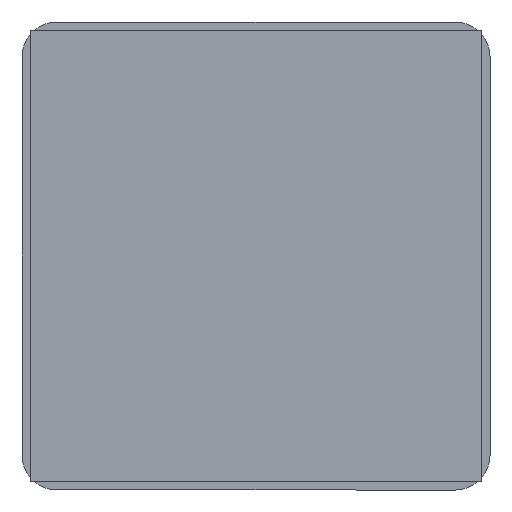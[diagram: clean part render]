
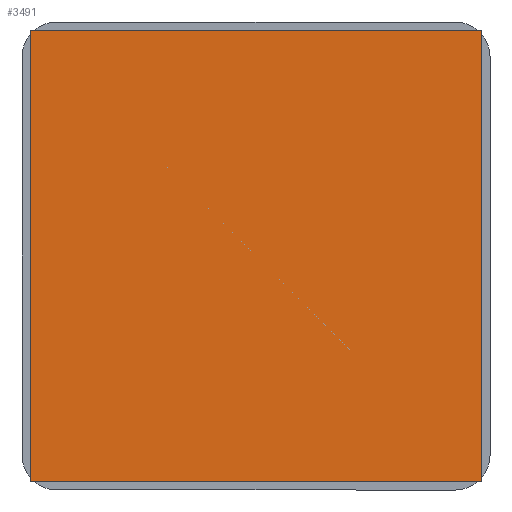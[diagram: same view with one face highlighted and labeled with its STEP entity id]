
A CAD part, front view. The second image highlights one B-rep face of the part: STEP entity #3491.
In plain terms, the highlighted planar face has unit normal (0, -1, 0).
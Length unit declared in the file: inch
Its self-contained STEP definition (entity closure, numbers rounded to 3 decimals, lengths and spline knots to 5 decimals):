
#431 = CARTESIAN_POINT ( 'NONE',  ( -0.84646, -0.005, 0.84646 ) ) ;
#724 = VERTEX_POINT ( 'NONE', #5263 ) ;
#1244 = LINE ( 'NONE', #9265, #3434 ) ;
#2049 = DIRECTION ( 'NONE',  ( 0., 0., 1. ) ) ;
#2160 = PLANE ( 'NONE',  #7037 ) ;
#2849 = CARTESIAN_POINT ( 'NONE',  ( 0.84646, -0.005, -0.84646 ) ) ;
#3177 = VERTEX_POINT ( 'NONE', #3203 ) ;
#3203 = CARTESIAN_POINT ( 'NONE',  ( -0.84646, -0.005, 0.84646 ) ) ;
#3325 = VERTEX_POINT ( 'NONE', #7808 ) ;
#3434 = VECTOR ( 'NONE', #6175, 39.37008 ) ;
#3491 = ADVANCED_FACE ( 'NONE', ( #9084 ), #2160, .F. ) ;
#3535 = EDGE_CURVE ( 'NONE', #8815, #724, #4458, .T. ) ;
#4080 = EDGE_LOOP ( 'NONE', ( #7252, #8305, #7974, #7660 ) ) ;
#4458 = LINE ( 'NONE', #6252, #7853 ) ;
#5167 = CARTESIAN_POINT ( 'NONE',  ( 0.84646, -0.005, -0.84646 ) ) ;
#5208 = CARTESIAN_POINT ( 'NONE',  ( -0.84646, -0.005, -0.84646 ) ) ;
#5220 = DIRECTION ( 'NONE',  ( 0., 0., 1. ) ) ;
#5263 = CARTESIAN_POINT ( 'NONE',  ( -0.84646, -0.005, -0.84646 ) ) ;
#6175 = DIRECTION ( 'NONE',  ( 1., 0., 0. ) ) ;
#6252 = CARTESIAN_POINT ( 'NONE',  ( -0.84646, -0.005, -0.84646 ) ) ;
#6290 = VECTOR ( 'NONE', #6739, 39.37008 ) ;
#6420 = EDGE_CURVE ( 'NONE', #3177, #3325, #1244, .T. ) ;
#6739 = DIRECTION ( 'NONE',  ( 0., 0., -1. ) ) ;
#6897 = EDGE_CURVE ( 'NONE', #724, #3177, #9124, .T. ) ;
#7037 = AXIS2_PLACEMENT_3D ( 'NONE', #431, #9135, #5220 ) ;
#7252 = ORIENTED_EDGE ( 'NONE', *, *, #6897, .F. ) ;
#7253 = VECTOR ( 'NONE', #2049, 39.37008 ) ;
#7649 = EDGE_CURVE ( 'NONE', #3325, #8815, #8374, .T. ) ;
#7660 = ORIENTED_EDGE ( 'NONE', *, *, #6420, .F. ) ;
#7808 = CARTESIAN_POINT ( 'NONE',  ( 0.84646, -0.005, 0.84646 ) ) ;
#7853 = VECTOR ( 'NONE', #9392, 39.37008 ) ;
#7974 = ORIENTED_EDGE ( 'NONE', *, *, #7649, .F. ) ;
#8305 = ORIENTED_EDGE ( 'NONE', *, *, #3535, .F. ) ;
#8374 = LINE ( 'NONE', #2849, #6290 ) ;
#8815 = VERTEX_POINT ( 'NONE', #5167 ) ;
#9084 = FACE_OUTER_BOUND ( 'NONE', #4080, .T. ) ;
#9124 = LINE ( 'NONE', #5208, #7253 ) ;
#9135 = DIRECTION ( 'NONE',  ( 0., 1., 0. ) ) ;
#9265 = CARTESIAN_POINT ( 'NONE',  ( -0.84646, -0.005, 0.84646 ) ) ;
#9392 = DIRECTION ( 'NONE',  ( -1., 0., 0. ) ) ;
